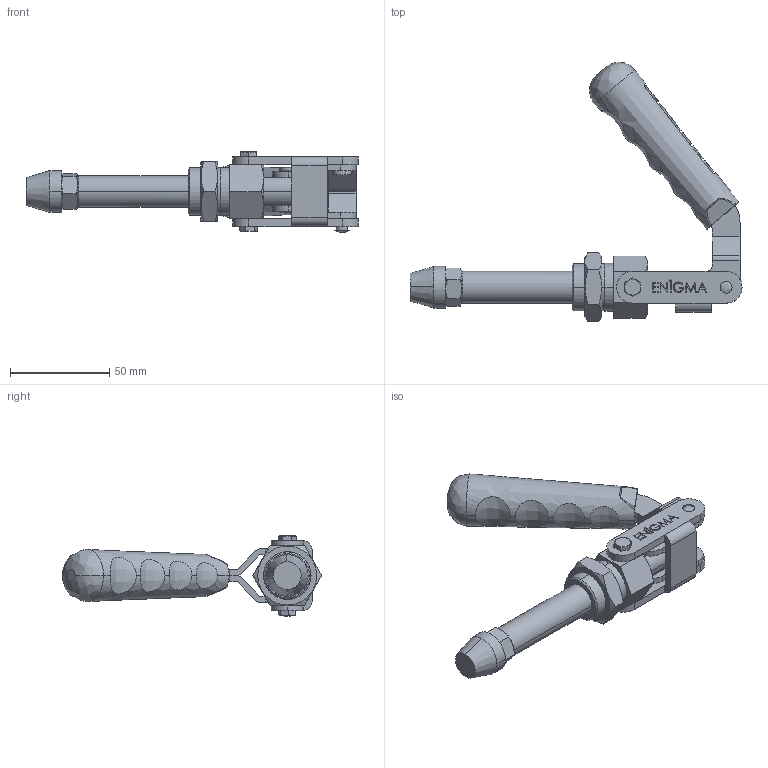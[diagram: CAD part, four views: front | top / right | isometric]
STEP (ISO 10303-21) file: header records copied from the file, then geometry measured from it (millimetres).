
FILE_DESCRIPTION (( 'STEP AP203' ), '1' );
FILE_NAME ('16016_T.STEP', '2022-11-28T05:30:52', ( '' ), ( '' ), 'SwSTEP 2.0', 'SolidWorks 2023', '' );
FILE_SCHEMA (( 'CONFIG_CONTROL_DESIGN' ));
Length unit declared in the file: millimetre
Products named in the file (13): 6x24_5_PER_X2_00c70130_X0_N_Varsay_X2_0131_X0_lan; 6x9_5_DOLU_PER_X2_00c70130_X0_N_Varsay_X2_0131_X0_lan; M5x6x10_Kademeli_Civata_Varsay_X2_0131_X0_lan; 16014 & 16016_MAFSAL_Varsay_X2_0131_X0_lan; 16014 & 16016_HAREKET_KOLU_Varsay_X2_0131_X0_lan; Bask_X2_0131_X0_ M10_Varsay_X2_0131_X0_lan; M10 Somun_Varsay_X2_0131_X0_lan; M24x1_5x8_Kontra_Somun_Varsay_X2_0131_X0_lan; Aynalama16014 & 16016_HAREKET_KOLU_Varsay_X2_0131_X0_lan; 16016_T; 16016__X2_00d8_X0_16_Frezelenmi_X2_015f_X0__Mil_Varsay_X2_0131_X0_lan; C95_Yeni_Tutamak_Varsay_X2_0131_X0_lan; 16016_Alt_X2_0131_X0_genG_X2_00f6_X0_vde_Varsay_X2_0131_X0_lan
Assembly tree (14 placements, depth 2):
  16016_T
    16014 & 16016_HAREKET_KOLU_Varsay_X2_0131_X0_lan
    16014 & 16016_MAFSAL_Varsay_X2_0131_X0_lan
    6x24_5_PER_X2_00c70130_X0_N_Varsay_X2_0131_X0_lan
    6x9_5_DOLU_PER_X2_00c70130_X0_N_Varsay_X2_0131_X0_lan  x2
    C95_Yeni_Tutamak_Varsay_X2_0131_X0_lan
    M5x6x10_Kademeli_Civata_Varsay_X2_0131_X0_lan  x2
    16016_Alt_X2_0131_X0_genG_X2_00f6_X0_vde_Varsay_X2_0131_X0_lan
    16016__X2_00d8_X0_16_Frezelenmi_X2_015f_X0__Mil_Varsay_X2_0131_X0_lan
    M24x1_5x8_Kontra_Somun_Varsay_X2_0131_X0_lan
    Aynalama16014 & 16016_HAREKET_KOLU_Varsay_X2_0131_X0_lan
    Bask_X2_0131_X0_ M10_Varsay_X2_0131_X0_lan
    M10 Somun_Varsay_X2_0131_X0_lan
Bounding box: 167 x 130.44 x 40.27 mm (x, y, z)
Volume: 103393.5 mm3; surface area: 53551.7 mm2
Topology: 14 solids, 14 shells, 562 faces, 1431 edges, 924 vertices
Faces by surface type: plane 307, cylinder 134, cone 73, bspline 48
Entity records: 19914 total; most frequent: CARTESIAN_POINT 5734, ORIENTED_EDGE 2718, DIRECTION 2545, EDGE_CURVE 1359, VERTEX_POINT 881, LINE 849, VECTOR 849, AXIS2_PLACEMENT_3D 848
